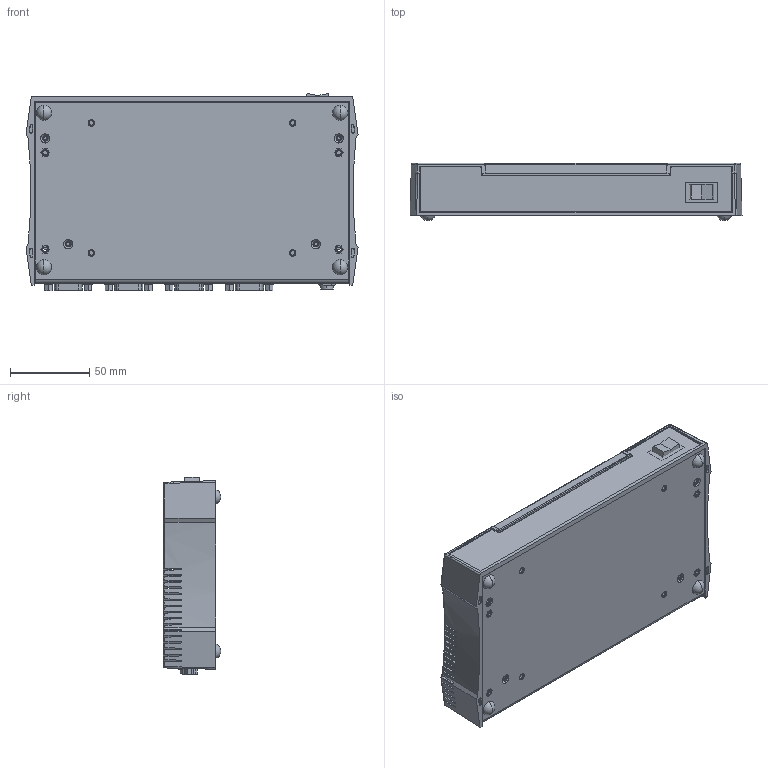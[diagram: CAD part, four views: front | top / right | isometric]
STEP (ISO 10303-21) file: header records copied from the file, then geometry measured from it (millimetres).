
FILE_DESCRIPTION((''),'2;1');
FILE_NAME('CUSTOMER_MODEL_SW0001','2012-02-28T',('stgill'),(''),'PRO/ENGINEER BY PARAMETRIC TECHNOLOGY CORPORATION, 2010230','PRO/ENGINEER BY PARAMETRIC TECHNOLOGY CORPORATION, 2010230','');
FILE_SCHEMA(('CONFIG_CONTROL_DESIGN'));
Products named in the file (1): CUSTOMER_MODEL_SW0001
Bounding box: 209.56 x 36.32 x 124.6 mm (x, y, z)
Surface area: 173578.8 mm2 (no closed solid volume)
Topology: 0 solids, 54 shells, 1728 faces, 5576 edges, 3774 vertices
Faces by surface type: plane 1139, cylinder 422, cone 104, torus 37, sphere 20, bspline 6
Entity records: 65871 total; most frequent: CARTESIAN_POINT 16825, ORIENTED_EDGE 10085, DIRECTION 9729, EDGE_CURVE 5560, VECTOR 4121, LINE 4121, VERTEX_POINT 3774, AXIS2_PLACEMENT_3D 2804
